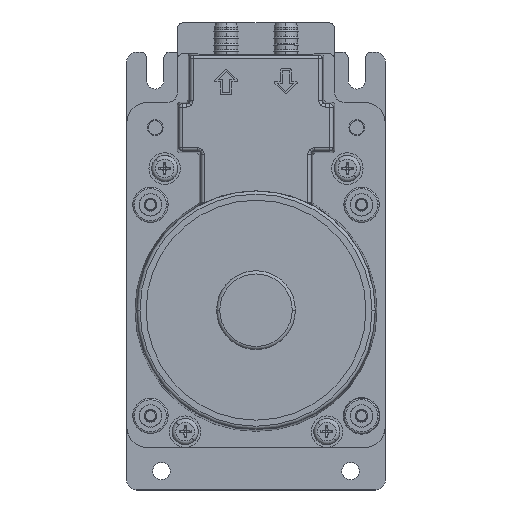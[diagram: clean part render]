
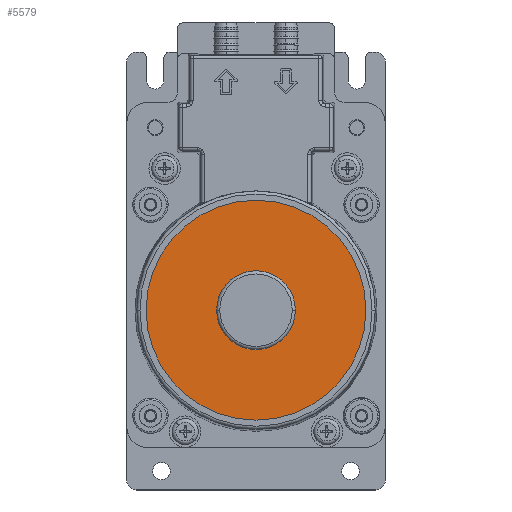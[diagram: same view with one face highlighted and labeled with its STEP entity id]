
A CAD part, top view. The second image highlights one B-rep face of the part: STEP entity #5579.
In plain terms, the highlighted planar face has unit normal (0, 0, 1).
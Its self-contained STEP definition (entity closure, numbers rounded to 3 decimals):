
#37 = CIRCLE ( 'NONE', #22053, 34.9 ) ;
#517 = AXIS2_PLACEMENT_3D ( 'NONE', #15855, #27651, #20450 ) ;
#1094 = PLANE ( 'NONE',  #24807 ) ;
#2531 = CIRCLE ( 'NONE', #15236, 34.9 ) ;
#2676 = ORIENTED_EDGE ( 'NONE', *, *, #28590, .F. ) ;
#2698 = CARTESIAN_POINT ( 'NONE',  ( 0., 0., 35.5 ) ) ;
#3677 = CARTESIAN_POINT ( 'NONE',  ( 0., 0., 35.5 ) ) ;
#4091 = ORIENTED_EDGE ( 'NONE', *, *, #16925, .F. ) ;
#5366 = DIRECTION ( 'NONE',  ( 1., 0., 0. ) ) ;
#5579 = ADVANCED_FACE ( 'NONE', ( #14873, #8100 ), #1094, .T. ) ;
#5950 = VERTEX_POINT ( 'NONE', #16832 ) ;
#8100 = FACE_OUTER_BOUND ( 'NONE', #26282, .T. ) ;
#8444 = CARTESIAN_POINT ( 'NONE',  ( 0., 0., 35.5 ) ) ;
#8627 = VERTEX_POINT ( 'NONE', #18091 ) ;
#8905 = DIRECTION ( 'NONE',  ( 1., 0., 0. ) ) ;
#11185 = DIRECTION ( 'NONE',  ( 0., 0., -1. ) ) ;
#11954 = EDGE_CURVE ( 'NONE', #5950, #22045, #21327, .T. ) ;
#12179 = DIRECTION ( 'NONE',  ( 0., 0., 1. ) ) ;
#12320 = DIRECTION ( 'NONE',  ( 0., 0., -1. ) ) ;
#12463 = CARTESIAN_POINT ( 'NONE',  ( 0., 0., 35.5 ) ) ;
#12484 = DIRECTION ( 'NONE',  ( 1., 0., 0. ) ) ;
#12606 = DIRECTION ( 'NONE',  ( 1., 0., 0. ) ) ;
#12971 = EDGE_LOOP ( 'NONE', ( #2676, #26754 ) ) ;
#14873 = FACE_BOUND ( 'NONE', #12971, .T. ) ;
#15236 = AXIS2_PLACEMENT_3D ( 'NONE', #8444, #11185, #8905 ) ;
#15855 = CARTESIAN_POINT ( 'NONE',  ( 0., 0., 35.5 ) ) ;
#16832 = CARTESIAN_POINT ( 'NONE',  ( 12.5, 0., 35.5 ) ) ;
#16925 = EDGE_CURVE ( 'NONE', #18319, #8627, #2531, .T. ) ;
#18091 = CARTESIAN_POINT ( 'NONE',  ( -34.9, 0., 35.5 ) ) ;
#18319 = VERTEX_POINT ( 'NONE', #28978 ) ;
#20450 = DIRECTION ( 'NONE',  ( 1., 0., 0. ) ) ;
#21327 = CIRCLE ( 'NONE', #21809, 12.5 ) ;
#21809 = AXIS2_PLACEMENT_3D ( 'NONE', #2698, #12179, #12484 ) ;
#22045 = VERTEX_POINT ( 'NONE', #27540 ) ;
#22053 = AXIS2_PLACEMENT_3D ( 'NONE', #12463, #12320, #12606 ) ;
#22523 = CIRCLE ( 'NONE', #517, 12.5 ) ;
#23505 = ORIENTED_EDGE ( 'NONE', *, *, #25887, .F. ) ;
#24204 = DIRECTION ( 'NONE',  ( 0., 0., 1. ) ) ;
#24807 = AXIS2_PLACEMENT_3D ( 'NONE', #3677, #24204, #5366 ) ;
#25887 = EDGE_CURVE ( 'NONE', #8627, #18319, #37, .T. ) ;
#26282 = EDGE_LOOP ( 'NONE', ( #23505, #4091 ) ) ;
#26754 = ORIENTED_EDGE ( 'NONE', *, *, #11954, .F. ) ;
#27540 = CARTESIAN_POINT ( 'NONE',  ( -12.5, 0., 35.5 ) ) ;
#27651 = DIRECTION ( 'NONE',  ( 0., 0., 1. ) ) ;
#28590 = EDGE_CURVE ( 'NONE', #22045, #5950, #22523, .T. ) ;
#28978 = CARTESIAN_POINT ( 'NONE',  ( 34.9, 0., 35.5 ) ) ;
